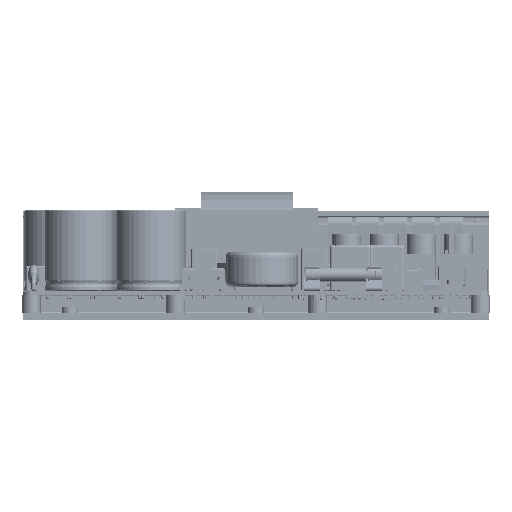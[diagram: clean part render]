
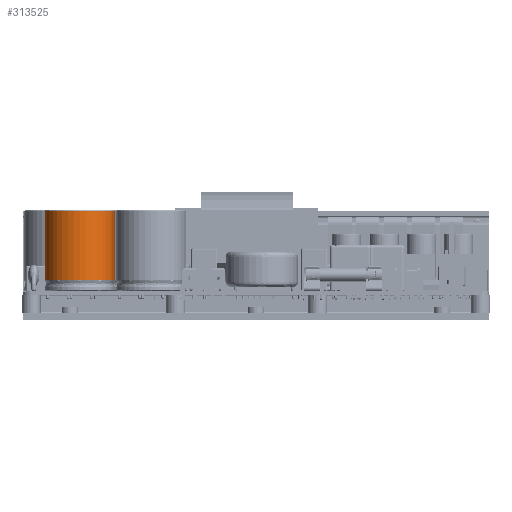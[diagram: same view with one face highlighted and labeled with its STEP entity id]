
A CAD part, top view. The second image highlights one B-rep face of the part: STEP entity #313525.
In plain terms, the highlighted cylindrical face has radius 15 mm (diameter 30 mm), a partial arc.
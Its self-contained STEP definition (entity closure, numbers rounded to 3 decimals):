
#8953 = DIRECTION ( 'NONE',  ( 0., 0., -1. ) ) ;
#10214 = VERTEX_POINT ( 'NONE', #280551 ) ;
#22873 = EDGE_CURVE ( 'NONE', #156847, #120677, #108661, .T. ) ;
#46093 = AXIS2_PLACEMENT_3D ( 'NONE', #274217, #357640, #299666 ) ;
#72880 = ORIENTED_EDGE ( 'NONE', *, *, #251927, .T. ) ;
#73200 = EDGE_LOOP ( 'NONE', ( #162860, #72880, #216612, #277142 ) ) ;
#92265 = DIRECTION ( 'NONE',  ( 1., 0., 0. ) ) ;
#92628 = CYLINDRICAL_SURFACE ( 'NONE', #252817, 15. ) ;
#95526 = DIRECTION ( 'NONE',  ( 1., 0., 0. ) ) ;
#105768 = CARTESIAN_POINT ( 'NONE',  ( 9.25, 15.5, 4.8 ) ) ;
#108330 = CARTESIAN_POINT ( 'NONE',  ( 39.25, 15.5, 4.8 ) ) ;
#108661 = LINE ( 'NONE', #170131, #190895 ) ;
#120677 = VERTEX_POINT ( 'NONE', #108330 ) ;
#123276 = DIRECTION ( 'NONE',  ( 0., 0., -1. ) ) ;
#156847 = VERTEX_POINT ( 'NONE', #253450 ) ;
#162860 = ORIENTED_EDGE ( 'NONE', *, *, #338857, .T. ) ;
#166452 = FACE_OUTER_BOUND ( 'NONE', #73200, .T. ) ;
#170131 = CARTESIAN_POINT ( 'NONE',  ( 39.25, 15.5, 35. ) ) ;
#190895 = VECTOR ( 'NONE', #201537, 1000. ) ;
#194299 = CIRCLE ( 'NONE', #240089, 15. ) ;
#201376 = EDGE_CURVE ( 'NONE', #293145, #120677, #289466, .T. ) ;
#201537 = DIRECTION ( 'NONE',  ( 0., 0., -1. ) ) ;
#206988 = DIRECTION ( 'NONE',  ( 0., 0., -1. ) ) ;
#216612 = ORIENTED_EDGE ( 'NONE', *, *, #201376, .T. ) ;
#228806 = CARTESIAN_POINT ( 'NONE',  ( 24.25, 15.5, 35. ) ) ;
#240089 = AXIS2_PLACEMENT_3D ( 'NONE', #345818, #123276, #95526 ) ;
#251927 = EDGE_CURVE ( 'NONE', #10214, #293145, #300750, .T. ) ;
#252817 = AXIS2_PLACEMENT_3D ( 'NONE', #228806, #8953, #92265 ) ;
#253450 = CARTESIAN_POINT ( 'NONE',  ( 39.25, 15.5, 34.5 ) ) ;
#274217 = CARTESIAN_POINT ( 'NONE',  ( 24.25, 15.5, 4.8 ) ) ;
#277142 = ORIENTED_EDGE ( 'NONE', *, *, #22873, .F. ) ;
#279155 = VECTOR ( 'NONE', #206988, 1000. ) ;
#280551 = CARTESIAN_POINT ( 'NONE',  ( 9.25, 15.5, 34.5 ) ) ;
#289466 = CIRCLE ( 'NONE', #46093, 15. ) ;
#293145 = VERTEX_POINT ( 'NONE', #105768 ) ;
#299666 = DIRECTION ( 'NONE',  ( 1., 0., 0. ) ) ;
#300750 = LINE ( 'NONE', #311211, #279155 ) ;
#311211 = CARTESIAN_POINT ( 'NONE',  ( 9.25, 15.5, 35. ) ) ;
#313525 = ADVANCED_FACE ( 'NONE', ( #166452 ), #92628, .T. ) ;
#338857 = EDGE_CURVE ( 'NONE', #156847, #10214, #194299, .T. ) ;
#345818 = CARTESIAN_POINT ( 'NONE',  ( 24.25, 15.5, 34.5 ) ) ;
#357640 = DIRECTION ( 'NONE',  ( 0., 0., 1. ) ) ;
